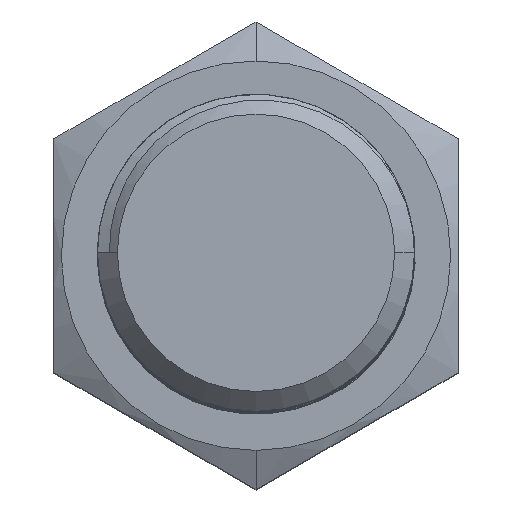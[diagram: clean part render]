
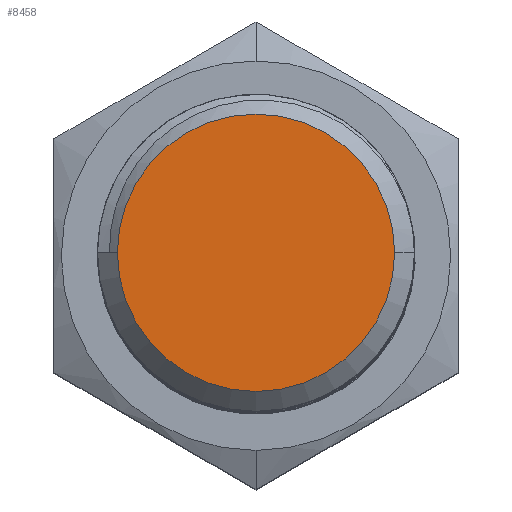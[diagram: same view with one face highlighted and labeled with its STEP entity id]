
A CAD part, top view. The second image highlights one B-rep face of the part: STEP entity #8458.
In plain terms, the highlighted planar face has unit normal (0, 0, 1).
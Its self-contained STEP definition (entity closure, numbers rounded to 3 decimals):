
#4434=CARTESIAN_POINT('',(0.,0.,60.));
#4435=DIRECTION('',(0.,0.,1.));
#4436=DIRECTION('',(1.,0.,0.));
#4437=AXIS2_PLACEMENT_3D('',#4434,#4435,#4436);
#4439=CARTESIAN_POINT('',(0.,0.,60.));
#4440=DIRECTION('',(0.,0.,1.));
#4441=DIRECTION('',(-1.,0.,0.));
#4442=AXIS2_PLACEMENT_3D('',#4439,#4440,#4441);
#5414=CARTESIAN_POINT('',(3.5,0.,60.));
#5415=CARTESIAN_POINT('',(-3.5,0.,60.));
#5416=VERTEX_POINT('',#5414);
#5417=VERTEX_POINT('',#5415);
#8449=CARTESIAN_POINT('',(0.,0.,60.));
#8450=DIRECTION('',(0.,0.,1.));
#8451=DIRECTION('',(1.,0.,0.));
#8452=AXIS2_PLACEMENT_3D('',#8449,#8450,#8451);
#8453=PLANE('',#8452);
#8454=ORIENTED_EDGE('',*,*,#8442,.F.);
#8455=ORIENTED_EDGE('',*,*,#7884,.F.);
#8456=EDGE_LOOP('',(#8454,#8455));
#8457=FACE_OUTER_BOUND('',#8456,.F.);
#4438=CIRCLE('',#4437,3.5);
#4443=CIRCLE('',#4442,3.5);
#7884=EDGE_CURVE('',#5417,#5416,#4443,.T.);
#8442=EDGE_CURVE('',#5416,#5417,#4438,.T.);
#8458=ADVANCED_FACE('',(#8457),#8453,.T.);
